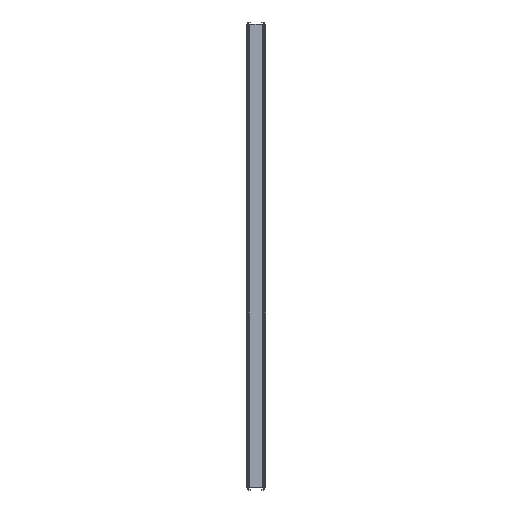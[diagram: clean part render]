
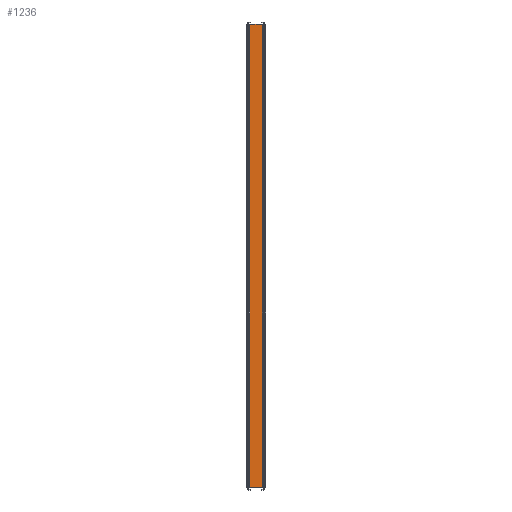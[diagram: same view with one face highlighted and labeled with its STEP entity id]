
A CAD part, top view. The second image highlights one B-rep face of the part: STEP entity #1236.
In plain terms, the highlighted planar face has unit normal (0, 0, 1).
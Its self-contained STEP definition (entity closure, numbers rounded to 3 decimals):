
#1236=ADVANCED_FACE('',(#14626),#14628,.F.);
#14626=FACE_BOUND('',#14627,.T.);
#14627=EDGE_LOOP('',(#48839,#48840,#48841,#48842));
#14628=PLANE('',#14629);
#14629=AXIS2_PLACEMENT_3D('',#14630,#14631,#14632);
#14630=CARTESIAN_POINT('',(0.,0.,38.));
#14631=DIRECTION('',(0.,0.,-1.));
#14632=DIRECTION('',(-1.,0.,0.));
#48839=ORIENTED_EDGE('',*,*,#69731,.F.);
#48840=ORIENTED_EDGE('',*,*,#69732,.T.);
#48841=ORIENTED_EDGE('',*,*,#69733,.F.);
#48842=ORIENTED_EDGE('',*,*,#69734,.T.);
#69731=EDGE_CURVE('',#83691,#83692,#83693,.T.);
#69732=EDGE_CURVE('',#83691,#83694,#83695,.T.);
#69733=EDGE_CURVE('',#83696,#83694,#83697,.T.);
#69734=EDGE_CURVE('',#83696,#83692,#83698,.T.);
#83691=VERTEX_POINT('',#110495);
#83692=VERTEX_POINT('',#110496);
#83693=LINE('',#110497,#110498);
#83694=VERTEX_POINT('',#110500);
#83695=LINE('',#110501,#110502);
#83696=VERTEX_POINT('',#110504);
#83697=LINE('',#110505,#110506);
#83698=LINE('',#110508,#110509);
#110495=CARTESIAN_POINT('',(-28.1,-1067.5,38.));
#110496=CARTESIAN_POINT('',(-28.1,1067.5,38.));
#110497=CARTESIAN_POINT('',(-28.1,-1067.5,38.));
#110498=VECTOR('',#110499,1.);
#110499=DIRECTION('',(0.,1.,0.));
#110500=CARTESIAN_POINT('',(28.1,-1067.5,38.));
#110501=CARTESIAN_POINT('',(-28.1,-1067.5,38.));
#110502=VECTOR('',#110503,1.);
#110503=DIRECTION('',(1.,0.,0.));
#110504=CARTESIAN_POINT('',(28.1,1067.5,38.));
#110505=CARTESIAN_POINT('',(28.1,1067.5,38.));
#110506=VECTOR('',#110507,1.);
#110507=DIRECTION('',(0.,-1.,0.));
#110508=CARTESIAN_POINT('',(28.1,1067.5,38.));
#110509=VECTOR('',#110510,1.);
#110510=DIRECTION('',(-1.,0.,0.));
